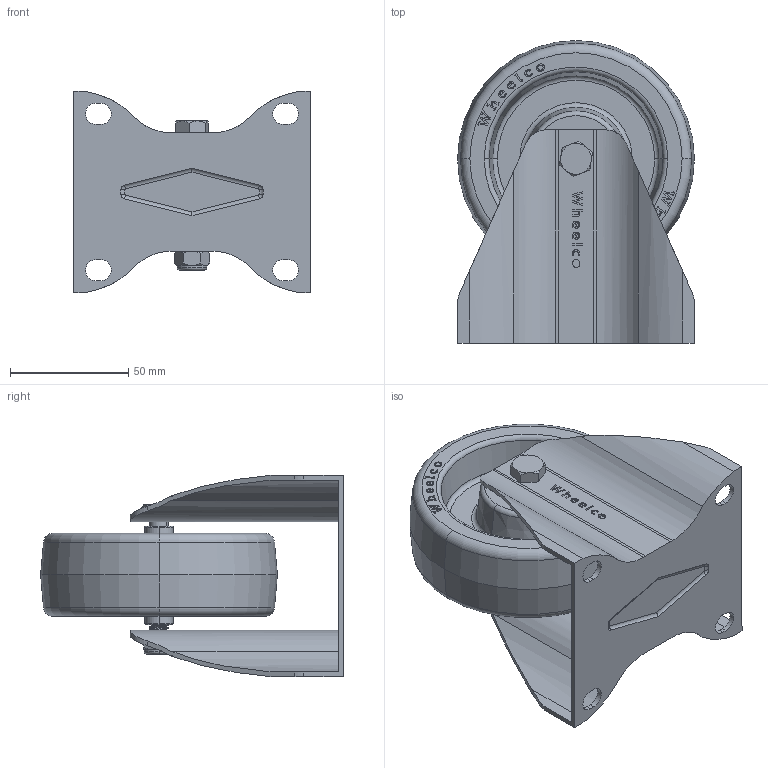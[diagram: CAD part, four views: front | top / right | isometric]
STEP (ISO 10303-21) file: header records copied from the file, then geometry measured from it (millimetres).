
FILE_DESCRIPTION (( 'STEP AP214' ), '1' );
FILE_NAME ('MSU100-SF.step', '2024-01-21T22:22:46', ( '' ), ( '' ), 'SwSTEP 2.0', 'SolidWorks 2022', '' );
FILE_SCHEMA (( 'AUTOMOTIVE_DESIGN' ));
Length unit declared in the file: millimetre
Products named in the file (6): MSU100-SF; SP12-8-41-SS; M8x55-SS; M8Nyloc-SS; MSU100_Re-size; MS100-SF
Assembly tree (5 placements, depth 2):
  MSU100-SF
    M8x55-SS
    M8Nyloc-SS
    SP12-8-41-SS
    MS100-SF
    MSU100_Re-size
Bounding box: 100 x 127.87 x 85 mm (x, y, z)
Volume: 220173.6 mm3; surface area: 84414.3 mm2
Topology: 5 solids, 5 shells, 804 faces, 2172 edges, 1436 vertices
Faces by surface type: plane 392, bspline 248, cylinder 100, cone 32, torus 30, sphere 2
Entity records: 42472 total; most frequent: CARTESIAN_POINT 23166, ORIENTED_EDGE 4344, DIRECTION 2856, EDGE_CURVE 2172, VERTEX_POINT 1436, LINE 1336, VECTOR 1336, EDGE_LOOP 880
